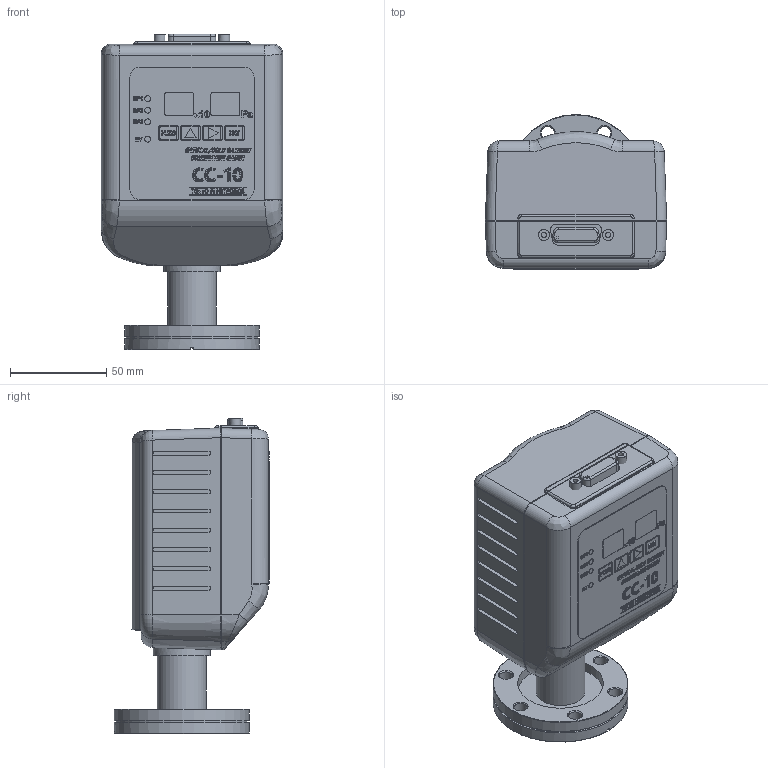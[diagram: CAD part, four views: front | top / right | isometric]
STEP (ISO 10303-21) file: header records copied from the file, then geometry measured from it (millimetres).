
FILE_DESCRIPTION(/* description */ (''),/* implementation_level */ '2;1');
FILE_NAME(/* name */ '',/* time_stamp */ '2023-09-08T14:43:18+09:00',/* author */ (''),/* organization */ (''),/* preprocessor_version */ 'ST-DEVELOPER v20',/* originating_system */ 'Autodesk Translation Framework v12.9.0.99',/* authorisation */ '');
FILE_SCHEMA (('AUTOMOTIVE_DESIGN { 1 0 10303 214 3 1 1 }'));
Products named in the file (7): CC-10外観図(ICF70); ボトムケース v3; Dsub15pin v2; Dsub15pin; ICF70R（L=40.5） v1; ICF70R42.7B-1; ICF70R42.7B-2
Assembly tree (6 placements, depth 3):
  CC-10外観図(ICF70)
    ボトムケース v3
    Dsub15pin v2
      Dsub15pin
    ICF70R（L=40.5） v1
      ICF70R42.7B-1
      ICF70R42.7B-2
Bounding box: 94 x 80.45 x 163.6 mm (x, y, z)
Volume: 119803.5 mm3; surface area: 127774.4 mm2
Topology: 93 solids, 93 shells, 1865 faces, 4862 edges, 3201 vertices
Faces by surface type: plane 909, bspline 747, cylinder 162, cone 35, torus 12
Full cylindrical faces by diameter (mm): 2.6 x2, 3 x4, 3.5 x2, 5.8 x2, 6.8 x6, 23.6 x1, 25.4 x1, 25.6 x1, 29.6 x1, 42 x1, 44.5 x1, 48.1 x1, 48.2 x1, 68 x1, 70 x2
Entity records: 66593 total; most frequent: CARTESIAN_POINT 25091, ORIENTED_EDGE 9712, DIRECTION 6061, EDGE_CURVE 4856, VERTEX_POINT 3201, LINE 2963, VECTOR 2963, EDGE_LOOP 2005
